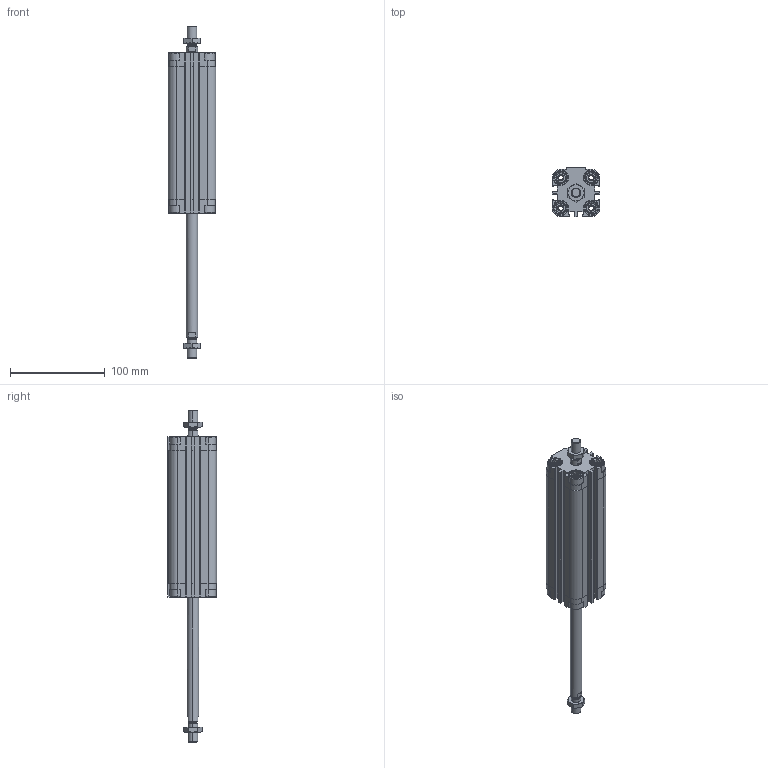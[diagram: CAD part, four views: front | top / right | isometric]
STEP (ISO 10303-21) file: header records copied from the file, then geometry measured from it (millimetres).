
FILE_DESCRIPTION (( 'STEP AP203' ), '1' );
FILE_NAME ('CDVU32-125M-P.STEP', '2020-07-21T15:15:32', ( '' ), ( '' ), 'SwSTEP 2.0', 'SolidWorks 2019', '' );
FILE_SCHEMA (( 'CONFIG_CONTROL_DESIGN' ));
Length unit declared in the file: millimetre
Products named in the file (1): CDVU32-125M-P
Bounding box: 50 x 52 x 350.5 mm (x, y, z)
Volume: 281446 mm3; surface area: 101645.6 mm2
Topology: 4 solids, 4 shells, 758 faces, 2004 edges, 1290 vertices
Faces by surface type: plane 438, cylinder 240, cone 80
Entity records: 24115 total; most frequent: CARTESIAN_POINT 5193, ORIENTED_EDGE 4000, DIRECTION 3862, EDGE_CURVE 2000, AXIS2_PLACEMENT_3D 1319, VERTEX_POINT 1290, VECTOR 1224, LINE 1224
